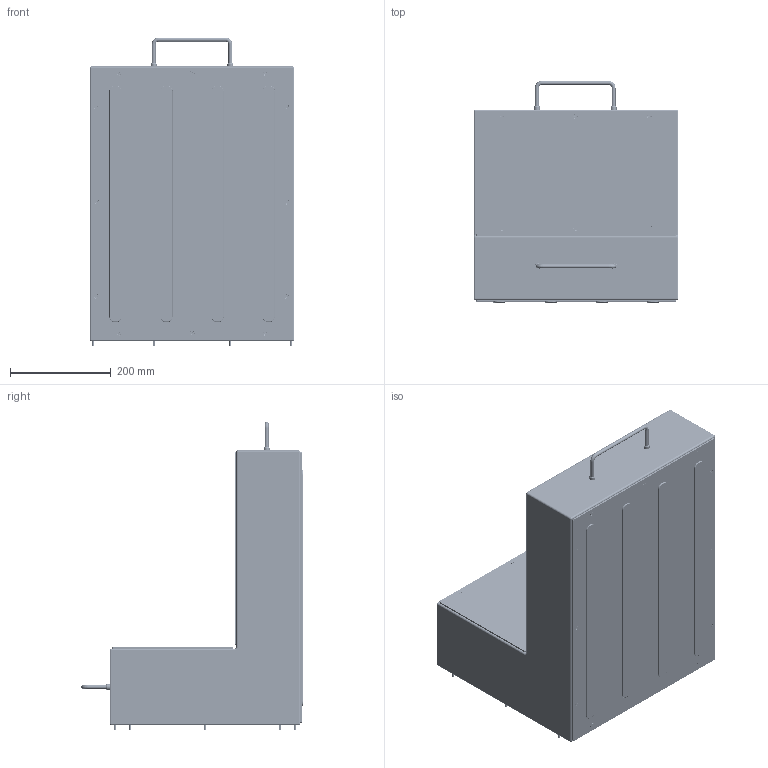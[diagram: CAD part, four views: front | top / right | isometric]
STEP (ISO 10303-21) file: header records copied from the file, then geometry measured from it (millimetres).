
FILE_DESCRIPTION (( 'STEP AP214' ), '1' );
FILE_NAME ('410112770.STEP', '2024-12-19T20:22:16', ( 'VPC Computer System' ), ( '' ), 'SwSTEP 2.0', 'SolidWorks 2024', '' );
FILE_SCHEMA (( 'AUTOMOTIVE_DESIGN' ));
Length unit declared in the file: inch
Products named in the file (1): 410112770
Bounding box: 406.91 x 441.93 x 614.32 mm (x, y, z)
Volume: 2692342.2 mm3; surface area: 1999623.4 mm2
Topology: 147 solids, 147 shells, 6893 faces, 17677 edges, 10814 vertices
Faces by surface type: plane 2264, bspline 2211, cylinder 1738, cone 488, torus 174, sphere 18
Entity records: 265940 total; most frequent: CARTESIAN_POINT 115508, ORIENTED_EDGE 34326, DIRECTION 26013, EDGE_CURVE 17163, VERTEX_POINT 10746, AXIS2_PLACEMENT_3D 9309, EDGE_LOOP 7505, LINE 7395
